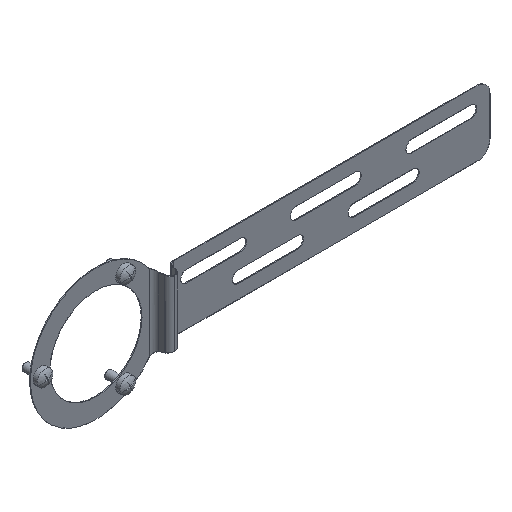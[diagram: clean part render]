
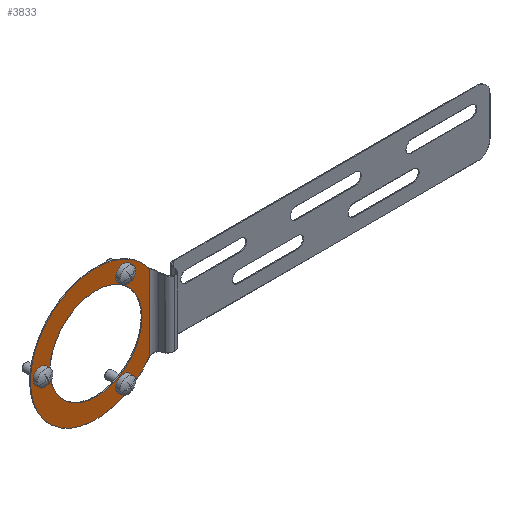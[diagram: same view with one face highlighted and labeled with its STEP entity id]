
A CAD part, isometric view. The second image highlights one B-rep face of the part: STEP entity #3833.
In plain terms, the highlighted planar face has unit normal (0, -1, 0).
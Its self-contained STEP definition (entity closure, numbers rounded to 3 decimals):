
#26 = AXIS2_PLACEMENT_3D ( 'NONE', #3543, #3850, #143 ) ;
#84 = DIRECTION ( 'NONE',  ( 1., 0., 0. ) ) ;
#126 = EDGE_CURVE ( 'NONE', #2313, #534, #167, .T. ) ;
#143 = DIRECTION ( 'NONE',  ( 1., 0., 0. ) ) ;
#167 = CIRCLE ( 'NONE', #1320, 1.65 ) ;
#179 = ORIENTED_EDGE ( 'NONE', *, *, #271, .F. ) ;
#211 = VERTEX_POINT ( 'NONE', #3566 ) ;
#271 = EDGE_CURVE ( 'NONE', #211, #2518, #2891, .T. ) ;
#364 = ORIENTED_EDGE ( 'NONE', *, *, #1037, .T. ) ;
#383 = EDGE_LOOP ( 'NONE', ( #3212, #364, #2385, #2683, #3076 ) ) ;
#401 = DIRECTION ( 'NONE',  ( 0., -1., 0. ) ) ;
#418 = VERTEX_POINT ( 'NONE', #1688 ) ;
#460 = DIRECTION ( 'NONE',  ( 0., -1., 0. ) ) ;
#520 = EDGE_CURVE ( 'NONE', #3649, #2921, #1210, .T. ) ;
#532 = AXIS2_PLACEMENT_3D ( 'NONE', #3386, #2540, #1190 ) ;
#534 = VERTEX_POINT ( 'NONE', #2292 ) ;
#544 = CARTESIAN_POINT ( 'NONE',  ( 20.06, 0., -14.919 ) ) ;
#565 = CARTESIAN_POINT ( 'NONE',  ( 24.875, 0., 18.5 ) ) ;
#575 = EDGE_CURVE ( 'NONE', #534, #2313, #681, .T. ) ;
#601 = CIRCLE ( 'NONE', #26, 17.5 ) ;
#610 = CIRCLE ( 'NONE', #1715, 25. ) ;
#629 = VERTEX_POINT ( 'NONE', #544 ) ;
#681 = CIRCLE ( 'NONE', #532, 1.65 ) ;
#725 = VERTEX_POINT ( 'NONE', #2261 ) ;
#732 = VERTEX_POINT ( 'NONE', #737 ) ;
#737 = CARTESIAN_POINT ( 'NONE',  ( 10.5, 0., 16.537 ) ) ;
#775 = CARTESIAN_POINT ( 'NONE',  ( 20.06, 0., 14.919 ) ) ;
#806 = DIRECTION ( 'NONE',  ( 0., -1., 0. ) ) ;
#829 = AXIS2_PLACEMENT_3D ( 'NONE', #3028, #3038, #3117 ) ;
#830 = EDGE_CURVE ( 'NONE', #732, #725, #1620, .T. ) ;
#848 = EDGE_CURVE ( 'NONE', #725, #732, #2662, .T. ) ;
#862 = CARTESIAN_POINT ( 'NONE',  ( 10.5, 0., -16.537 ) ) ;
#867 = EDGE_CURVE ( 'NONE', #418, #1710, #1863, .T. ) ;
#913 = CARTESIAN_POINT ( 'NONE',  ( 20.361, 0., -14.547 ) ) ;
#956 = CARTESIAN_POINT ( 'NONE',  ( -25., 0., 0. ) ) ;
#1007 = AXIS2_PLACEMENT_3D ( 'NONE', #1466, #2339, #3100 ) ;
#1037 = EDGE_CURVE ( 'NONE', #418, #3845, #2338, .T. ) ;
#1062 = FACE_BOUND ( 'NONE', #1848, .T. ) ;
#1070 = CIRCLE ( 'NONE', #3684, 1.65 ) ;
#1079 = FACE_BOUND ( 'NONE', #3418, .T. ) ;
#1081 = EDGE_CURVE ( 'NONE', #3845, #2136, #2411, .T. ) ;
#1086 = FACE_BOUND ( 'NONE', #3801, .T. ) ;
#1090 = FACE_BOUND ( 'NONE', #1206, .T. ) ;
#1172 = ORIENTED_EDGE ( 'NONE', *, *, #830, .F. ) ;
#1176 = PLANE ( 'NONE',  #1007 ) ;
#1190 = DIRECTION ( 'NONE',  ( 1., 0., 0. ) ) ;
#1206 = EDGE_LOOP ( 'NONE', ( #3813, #1939 ) ) ;
#1210 = CIRCLE ( 'NONE', #2478, 1.65 ) ;
#1227 = CARTESIAN_POINT ( 'NONE',  ( 10.5, 0., 18.187 ) ) ;
#1320 = AXIS2_PLACEMENT_3D ( 'NONE', #3410, #3426, #3437 ) ;
#1324 = AXIS2_PLACEMENT_3D ( 'NONE', #3562, #3450, #1433 ) ;
#1355 = DIRECTION ( 'NONE',  ( 1., 0., 0. ) ) ;
#1433 = DIRECTION ( 'NONE',  ( 1., 0., 0. ) ) ;
#1466 = CARTESIAN_POINT ( 'NONE',  ( 21.895, 0., 27.5 ) ) ;
#1518 = AXIS2_PLACEMENT_3D ( 'NONE', #1227, #3333, #1526 ) ;
#1526 = DIRECTION ( 'NONE',  ( 1., 0., 0. ) ) ;
#1620 = CIRCLE ( 'NONE', #1324, 1.65 ) ;
#1688 = CARTESIAN_POINT ( 'NONE',  ( 20.361, 0., 14.547 ) ) ;
#1706 = FACE_OUTER_BOUND ( 'NONE', #383, .T. ) ;
#1710 = VERTEX_POINT ( 'NONE', #913 ) ;
#1715 = AXIS2_PLACEMENT_3D ( 'NONE', #3315, #806, #2916 ) ;
#1843 = CARTESIAN_POINT ( 'NONE',  ( 10.5, 0., -19.837 ) ) ;
#1848 = EDGE_LOOP ( 'NONE', ( #179, #2632 ) ) ;
#1863 = LINE ( 'NONE', #2939, #3762 ) ;
#1899 = CARTESIAN_POINT ( 'NONE',  ( 0., 0., 0. ) ) ;
#1939 = ORIENTED_EDGE ( 'NONE', *, *, #575, .F. ) ;
#1942 = EDGE_CURVE ( 'NONE', #629, #1710, #2581, .T. ) ;
#2133 = AXIS2_PLACEMENT_3D ( 'NONE', #3759, #3763, #3767 ) ;
#2136 = VERTEX_POINT ( 'NONE', #956 ) ;
#2201 = ORIENTED_EDGE ( 'NONE', *, *, #520, .F. ) ;
#2247 = CARTESIAN_POINT ( 'NONE',  ( -21., 0., 1.65 ) ) ;
#2261 = CARTESIAN_POINT ( 'NONE',  ( 10.5, 0., 19.837 ) ) ;
#2265 = AXIS2_PLACEMENT_3D ( 'NONE', #565, #2399, #84 ) ;
#2292 = CARTESIAN_POINT ( 'NONE',  ( -21., 0., -1.65 ) ) ;
#2313 = VERTEX_POINT ( 'NONE', #2247 ) ;
#2338 = CIRCLE ( 'NONE', #2265, 6. ) ;
#2339 = DIRECTION ( 'NONE',  ( 0., -1., 0. ) ) ;
#2385 = ORIENTED_EDGE ( 'NONE', *, *, #1081, .T. ) ;
#2399 = DIRECTION ( 'NONE',  ( 0., 1., 0. ) ) ;
#2411 = CIRCLE ( 'NONE', #3011, 25. ) ;
#2478 = AXIS2_PLACEMENT_3D ( 'NONE', #2483, #3148, #1355 ) ;
#2483 = CARTESIAN_POINT ( 'NONE',  ( 10.5, 0., -18.187 ) ) ;
#2518 = VERTEX_POINT ( 'NONE', #3352 ) ;
#2540 = DIRECTION ( 'NONE',  ( 0., -1., 0. ) ) ;
#2581 = CIRCLE ( 'NONE', #829, 6. ) ;
#2630 = EDGE_CURVE ( 'NONE', #2921, #3649, #1070, .T. ) ;
#2632 = ORIENTED_EDGE ( 'NONE', *, *, #3600, .F. ) ;
#2662 = CIRCLE ( 'NONE', #1518, 1.65 ) ;
#2683 = ORIENTED_EDGE ( 'NONE', *, *, #3575, .T. ) ;
#2891 = CIRCLE ( 'NONE', #2133, 17.5 ) ;
#2916 = DIRECTION ( 'NONE',  ( 1., 0., 0. ) ) ;
#2921 = VERTEX_POINT ( 'NONE', #1843 ) ;
#2939 = CARTESIAN_POINT ( 'NONE',  ( 20.361, 0., 14.547 ) ) ;
#2964 = CARTESIAN_POINT ( 'NONE',  ( 10.5, 0., -18.187 ) ) ;
#3011 = AXIS2_PLACEMENT_3D ( 'NONE', #1899, #460, #3216 ) ;
#3028 = CARTESIAN_POINT ( 'NONE',  ( 24.875, 0., -18.5 ) ) ;
#3038 = DIRECTION ( 'NONE',  ( 0., 1., 0. ) ) ;
#3076 = ORIENTED_EDGE ( 'NONE', *, *, #1942, .T. ) ;
#3100 = DIRECTION ( 'NONE',  ( 1., 0., 0. ) ) ;
#3117 = DIRECTION ( 'NONE',  ( 1., 0., 0. ) ) ;
#3148 = DIRECTION ( 'NONE',  ( 0., -1., 0. ) ) ;
#3160 = DIRECTION ( 'NONE',  ( 0., 0., -1. ) ) ;
#3212 = ORIENTED_EDGE ( 'NONE', *, *, #867, .F. ) ;
#3216 = DIRECTION ( 'NONE',  ( 1., 0., 0. ) ) ;
#3303 = ORIENTED_EDGE ( 'NONE', *, *, #2630, .F. ) ;
#3315 = CARTESIAN_POINT ( 'NONE',  ( 0., 0., 0. ) ) ;
#3333 = DIRECTION ( 'NONE',  ( 0., -1., 0. ) ) ;
#3352 = CARTESIAN_POINT ( 'NONE',  ( 0., 0., -17.5 ) ) ;
#3386 = CARTESIAN_POINT ( 'NONE',  ( -21., 0., 0. ) ) ;
#3410 = CARTESIAN_POINT ( 'NONE',  ( -21., 0., 0. ) ) ;
#3418 = EDGE_LOOP ( 'NONE', ( #2201, #3303 ) ) ;
#3423 = ORIENTED_EDGE ( 'NONE', *, *, #848, .F. ) ;
#3426 = DIRECTION ( 'NONE',  ( 0., -1., 0. ) ) ;
#3437 = DIRECTION ( 'NONE',  ( 1., 0., 0. ) ) ;
#3450 = DIRECTION ( 'NONE',  ( 0., -1., 0. ) ) ;
#3543 = CARTESIAN_POINT ( 'NONE',  ( 0., 0., 0. ) ) ;
#3562 = CARTESIAN_POINT ( 'NONE',  ( 10.5, 0., 18.187 ) ) ;
#3566 = CARTESIAN_POINT ( 'NONE',  ( 0., 0., 17.5 ) ) ;
#3575 = EDGE_CURVE ( 'NONE', #2136, #629, #610, .T. ) ;
#3600 = EDGE_CURVE ( 'NONE', #2518, #211, #601, .T. ) ;
#3649 = VERTEX_POINT ( 'NONE', #862 ) ;
#3684 = AXIS2_PLACEMENT_3D ( 'NONE', #2964, #401, #3781 ) ;
#3759 = CARTESIAN_POINT ( 'NONE',  ( 0., 0., 0. ) ) ;
#3762 = VECTOR ( 'NONE', #3160, 1000. ) ;
#3763 = DIRECTION ( 'NONE',  ( 0., -1., 0. ) ) ;
#3767 = DIRECTION ( 'NONE',  ( 1., 0., 0. ) ) ;
#3781 = DIRECTION ( 'NONE',  ( 1., 0., 0. ) ) ;
#3801 = EDGE_LOOP ( 'NONE', ( #3423, #1172 ) ) ;
#3813 = ORIENTED_EDGE ( 'NONE', *, *, #126, .F. ) ;
#3833 = ADVANCED_FACE ( 'NONE', ( #1706, #1090, #1079, #1086, #1062 ), #1176, .T. ) ;
#3845 = VERTEX_POINT ( 'NONE', #775 ) ;
#3850 = DIRECTION ( 'NONE',  ( 0., -1., 0. ) ) ;
